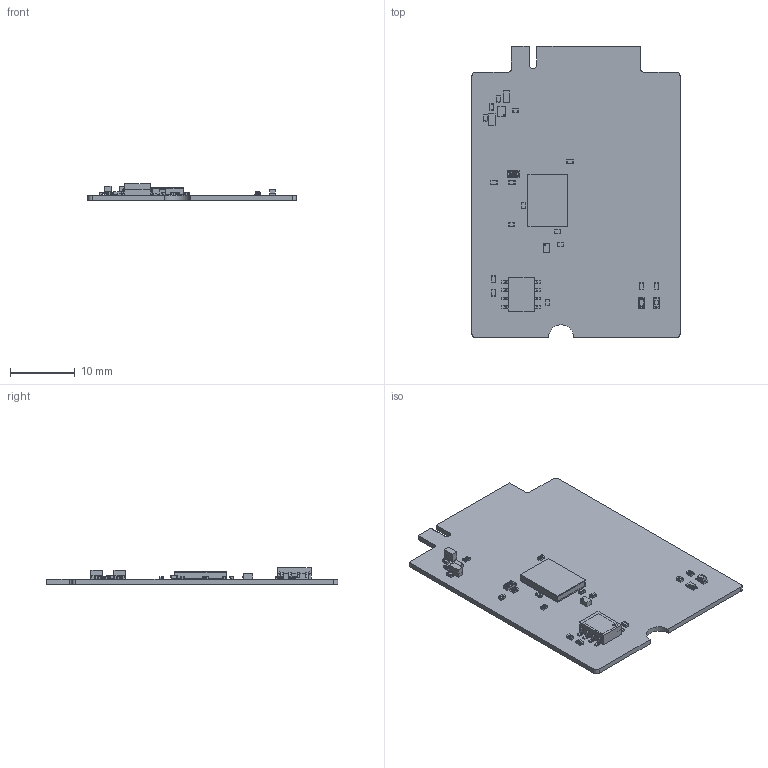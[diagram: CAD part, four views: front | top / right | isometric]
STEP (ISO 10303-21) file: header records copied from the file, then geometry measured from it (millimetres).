
FILE_DESCRIPTION(('Open CASCADE Model'),'2;1');
FILE_NAME('Open CASCADE Shape Model','2025-10-03T13:15:24',('Author'),( 'Open CASCADE'),'Open CASCADE STEP processor 7.5','Open CASCADE 7.5' ,'Unknown');
FILE_SCHEMA(('AUTOMOTIVE_DESIGN { 1 0 10303 214 1 1 1 1 }'));
Length unit declared in the file: millimetre
Products named in the file (86): PCB; Board; Open CASCADE STEP translator 7.5 1.1.1; SB7; R0402; 7230305568; Extruded; SB6; C16; C0402; 7230304928; R8; U6; 7239452672; 7239452432; Cylinder; U4; ICC_BGA24_5X5-BALL-ARRAY_6X8_P1; 7239116752; U2; SO8; 7239452112; U1; 7239451872; 7239451712; 7239451552; 7239451392; 7239116912; SB5; SB2; R7; R0603; 7230305088; R5; 7239115632; R4; R3; R2; R1; LD2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
Assembly tree (132 placements, depth 4):
  PCB
    Board
      Open CASCADE STEP translator 7.5 1.1.1
    SB7
      R0402
      7230305568
        Extruded
    SB6
      R0402
      7230305568
        Extruded
    C16
      C0402
      7230304928
        Extruded
    R8
      R0402
      7230304928
        Extruded
    U6
      7239452672
        Extruded
      7239452432
        Cylinder
    U4
      ICC_BGA24_5X5-BALL-ARRAY_6X8_P1
      7239116752
        Extruded
    U2
      SO8
      7239452112
        Extruded
    U1
      7239451872
        Cylinder
      7239451712  x8
        Extruded
      7239451552  x8
        Extruded
      7239451392
        Extruded
      7239116912
        Extruded
    SB5
      R0402
      7230305568
        Extruded
    SB2
      R0402
      7230305568
        Extruded
    R7
      R0603
      7230305088
        Extruded
    R5
      R0402
      7239115632
        Extruded
    R4
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Bounding box: 32.1 x 44.98 x 2.55 mm (x, y, z)
Volume: 1282.8 mm3; surface area: 3490 mm2
Topology: 105 solids, 107 shells, 4175 faces, 9647 edges, 5358 vertices
Faces by surface type: cylinder 1344, plane 1324, bspline 781, sphere 578, torus 90, revolution 48, cone 10
Full cylindrical faces by diameter (mm): 0.2 x2, 0.3 x1
Entity records: 40437 total; most frequent: CARTESIAN_POINT 13150, ORIENTED_EDGE 4620, DIRECTION 4476, EDGE_CURVE 2309, AXIS2_PLACEMENT_3D 1522, VERTEX_POINT 1470, LINE 1424, VECTOR 1424
